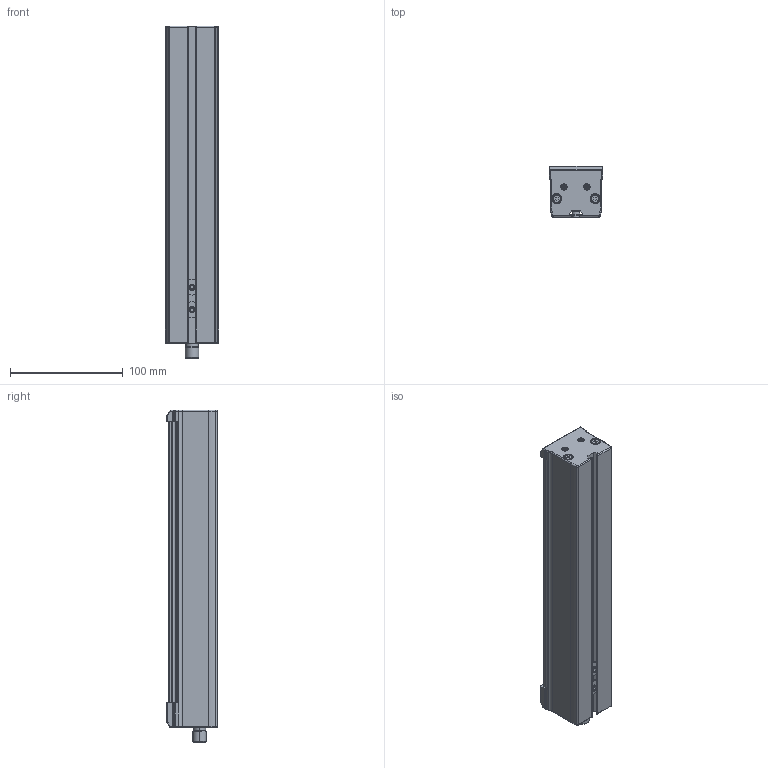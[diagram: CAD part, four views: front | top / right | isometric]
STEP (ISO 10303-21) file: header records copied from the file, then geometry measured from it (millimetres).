
FILE_DESCRIPTION (( 'STEP AP214' ), '1' );
FILE_NAME ('EBAR-EC-250-xxx-xx_CLIENT.STEP', '2026-06-04T10:45:24', ( '' ), ( '' ), 'SwSTEP 2.0', 'SolidWorks 2025', '' );
FILE_SCHEMA (( 'AUTOMOTIVE_DESIGN' ));
Length unit declared in the file: millimetre
Products named in the file (3): EBAR-EC-250-xxx-xx_CLIENT; EBAR-EC-xxx-xxx-xx_CLIENT_250; 1-X2014-01-3-A
Assembly tree (3 placements, depth 2):
  EBAR-EC-250-xxx-xx_CLIENT
    EBAR-EC-xxx-xxx-xx_CLIENT_250
    1-X2014-01-3-A  x2
Bounding box: 47.63 x 45 x 295.06 mm (x, y, z)
Volume: 504091.3 mm3; surface area: 65095.6 mm2
Topology: 3 solids, 3 shells, 731 faces, 1873 edges, 1204 vertices
Faces by surface type: plane 311, cylinder 207, bspline 131, torus 62, cone 16, sphere 4
Entity records: 26468 total; most frequent: CARTESIAN_POINT 9553, ORIENTED_EDGE 3600, DIRECTION 3083, EDGE_CURVE 1800, VERTEX_POINT 1163, AXIS2_PLACEMENT_3D 1065, LINE 953, VECTOR 953
